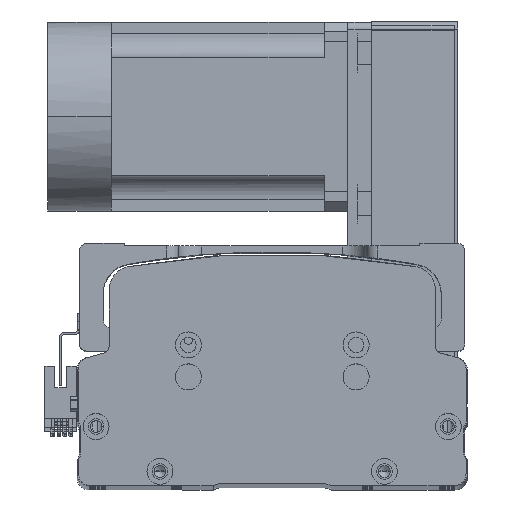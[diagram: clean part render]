
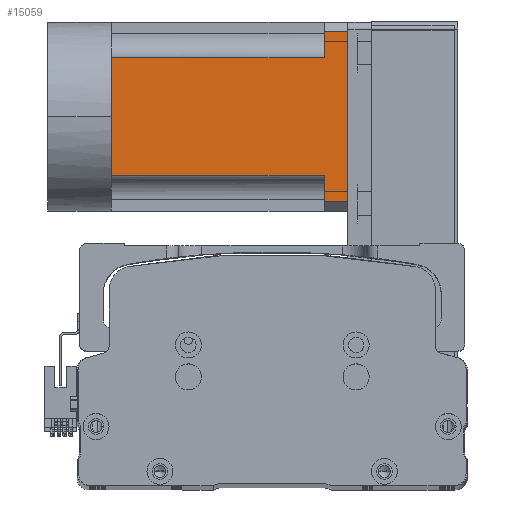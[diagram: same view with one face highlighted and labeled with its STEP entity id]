
A CAD part, top view. The second image highlights one B-rep face of the part: STEP entity #15059.
In plain terms, the highlighted planar face has unit normal (0, 0, 1) as drawn and (0, 0, -1) by its records, which use the part's own axes.
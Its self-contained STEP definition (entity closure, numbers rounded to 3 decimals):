
#919 = VECTOR ( 'NONE', #14266, 1000. ) ;
#2178 = DIRECTION ( 'NONE',  ( -1., 0., 0. ) ) ;
#2447 = VERTEX_POINT ( 'NONE', #29350 ) ;
#2453 = LINE ( 'NONE', #9284, #919 ) ;
#3622 = ORIENTED_EDGE ( 'NONE', *, *, #10498, .T. ) ;
#5990 = ORIENTED_EDGE ( 'NONE', *, *, #55431, .T. ) ;
#6140 = CARTESIAN_POINT ( 'NONE',  ( 25., 90., -40. ) ) ;
#7337 = CARTESIAN_POINT ( 'NONE',  ( -40., 0., -40. ) ) ;
#7685 = VECTOR ( 'NONE', #20625, 1000. ) ;
#9284 = CARTESIAN_POINT ( 'NONE',  ( -40., 100., -40. ) ) ;
#10183 = LINE ( 'NONE', #7337, #34876 ) ;
#10498 = EDGE_CURVE ( 'NONE', #50566, #35310, #10183, .T. ) ;
#10676 = EDGE_CURVE ( 'NONE', #32421, #61736, #51830, .T. ) ;
#13630 = LINE ( 'NONE', #19303, #49915 ) ;
#14137 = ORIENTED_EDGE ( 'NONE', *, *, #55267, .T. ) ;
#14266 = DIRECTION ( 'NONE',  ( -1., 0., 0. ) ) ;
#15001 = VERTEX_POINT ( 'NONE', #49916 ) ;
#15059 = ADVANCED_FACE ( 'NONE', ( #22641 ), #25484, .T. ) ;
#15823 = CARTESIAN_POINT ( 'NONE',  ( -40., -27., -40. ) ) ;
#16821 = CARTESIAN_POINT ( 'NONE',  ( -25., -27., -40. ) ) ;
#18765 = CARTESIAN_POINT ( 'NONE',  ( -40., 0., -40. ) ) ;
#19303 = CARTESIAN_POINT ( 'NONE',  ( -40., 90., -40. ) ) ;
#20432 = CARTESIAN_POINT ( 'NONE',  ( -36., 100., -40. ) ) ;
#20625 = DIRECTION ( 'NONE',  ( 0., 1., 0. ) ) ;
#21770 = DIRECTION ( 'NONE',  ( 0., 1., 0. ) ) ;
#22563 = LINE ( 'NONE', #58639, #34147 ) ;
#22641 = FACE_OUTER_BOUND ( 'NONE', #57596, .T. ) ;
#23033 = DIRECTION ( 'NONE',  ( -1., 0., 0. ) ) ;
#25189 = CARTESIAN_POINT ( 'NONE',  ( 0., 0., -40. ) ) ;
#25484 = PLANE ( 'NONE',  #59539 ) ;
#25602 = EDGE_CURVE ( 'NONE', #15001, #50566, #26969, .T. ) ;
#25713 = DIRECTION ( 'NONE',  ( -1., 0., 0. ) ) ;
#26207 = ORIENTED_EDGE ( 'NONE', *, *, #33063, .T. ) ;
#26969 = LINE ( 'NONE', #18765, #53230 ) ;
#29240 = ORIENTED_EDGE ( 'NONE', *, *, #25602, .T. ) ;
#29329 = CARTESIAN_POINT ( 'NONE',  ( 36., 100., -40. ) ) ;
#29350 = CARTESIAN_POINT ( 'NONE',  ( -36., 90., -40. ) ) ;
#30508 = CARTESIAN_POINT ( 'NONE',  ( -36., -27., -40. ) ) ;
#31172 = CARTESIAN_POINT ( 'NONE',  ( -25., 90., -40. ) ) ;
#32367 = EDGE_CURVE ( 'NONE', #32421, #57674, #2453, .T. ) ;
#32421 = VERTEX_POINT ( 'NONE', #29329 ) ;
#33063 = EDGE_CURVE ( 'NONE', #2447, #57674, #33929, .T. ) ;
#33929 = LINE ( 'NONE', #30508, #7685 ) ;
#34147 = VECTOR ( 'NONE', #54542, 1000. ) ;
#34876 = VECTOR ( 'NONE', #2178, 1000. ) ;
#35310 = VERTEX_POINT ( 'NONE', #41048 ) ;
#38278 = EDGE_CURVE ( 'NONE', #49746, #15001, #22563, .T. ) ;
#38578 = DIRECTION ( 'NONE',  ( 0., -1., 0. ) ) ;
#38603 = DIRECTION ( 'NONE',  ( -1., 0., 0. ) ) ;
#41048 = CARTESIAN_POINT ( 'NONE',  ( -25., 0., -40. ) ) ;
#42121 = ORIENTED_EDGE ( 'NONE', *, *, #10676, .T. ) ;
#42490 = VECTOR ( 'NONE', #21770, 1000. ) ;
#45470 = ORIENTED_EDGE ( 'NONE', *, *, #32367, .F. ) ;
#45819 = EDGE_CURVE ( 'NONE', #55761, #2447, #13630, .T. ) ;
#46524 = ORIENTED_EDGE ( 'NONE', *, *, #38278, .T. ) ;
#47884 = CARTESIAN_POINT ( 'NONE',  ( -40., 90., -40. ) ) ;
#48521 = ORIENTED_EDGE ( 'NONE', *, *, #45819, .T. ) ;
#49746 = VERTEX_POINT ( 'NONE', #6140 ) ;
#49915 = VECTOR ( 'NONE', #63674, 1000. ) ;
#49916 = CARTESIAN_POINT ( 'NONE',  ( 25., 0., -40. ) ) ;
#50566 = VERTEX_POINT ( 'NONE', #25189 ) ;
#51693 = LINE ( 'NONE', #47884, #63224 ) ;
#51830 = LINE ( 'NONE', #63115, #53397 ) ;
#51955 = CARTESIAN_POINT ( 'NONE',  ( 36., 90., -40. ) ) ;
#53230 = VECTOR ( 'NONE', #38603, 1000. ) ;
#53397 = VECTOR ( 'NONE', #38578, 1000. ) ;
#54542 = DIRECTION ( 'NONE',  ( 0., -1., 0. ) ) ;
#55236 = DIRECTION ( 'NONE',  ( 0., 0., -1. ) ) ;
#55267 = EDGE_CURVE ( 'NONE', #35310, #55761, #57112, .T. ) ;
#55431 = EDGE_CURVE ( 'NONE', #61736, #49746, #51693, .T. ) ;
#55761 = VERTEX_POINT ( 'NONE', #31172 ) ;
#57112 = LINE ( 'NONE', #16821, #42490 ) ;
#57596 = EDGE_LOOP ( 'NONE', ( #45470, #42121, #5990, #46524, #29240, #3622, #14137, #48521, #26207 ) ) ;
#57674 = VERTEX_POINT ( 'NONE', #20432 ) ;
#58639 = CARTESIAN_POINT ( 'NONE',  ( 25., -27., -40. ) ) ;
#59539 = AXIS2_PLACEMENT_3D ( 'NONE', #15823, #55236, #25713 ) ;
#61736 = VERTEX_POINT ( 'NONE', #51955 ) ;
#63115 = CARTESIAN_POINT ( 'NONE',  ( 36., -27., -40. ) ) ;
#63224 = VECTOR ( 'NONE', #23033, 1000. ) ;
#63674 = DIRECTION ( 'NONE',  ( -1., 0., 0. ) ) ;
